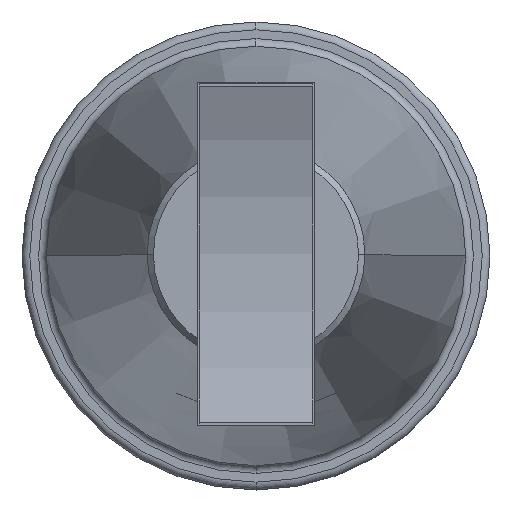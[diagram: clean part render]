
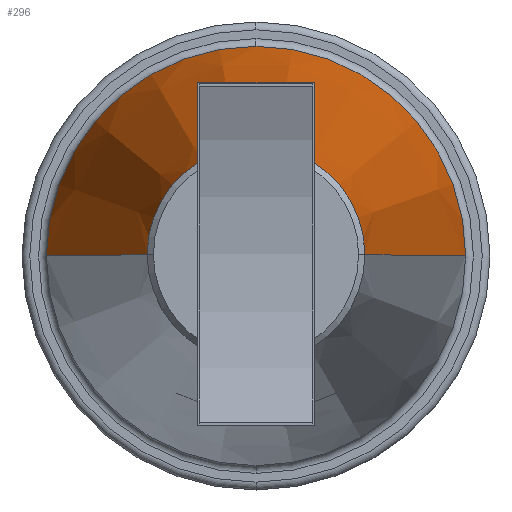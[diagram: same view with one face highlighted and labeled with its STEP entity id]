
A CAD part, top view. The second image highlights one B-rep face of the part: STEP entity #296.
In plain terms, the highlighted conical face has half-angle 7.768 degrees and reference radius 102.093 mm.
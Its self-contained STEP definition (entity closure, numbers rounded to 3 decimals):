
#296=ADVANCED_FACE('',(#621),#622,.T.);
#621=FACE_OUTER_BOUND('',#1008,.T.);
#622=CONICAL_SURFACE('',#1009,102.093,0.136);
#1008=EDGE_LOOP('',(#1703,#1704,#1705,#1706,#1707));
#1009=AXIS2_PLACEMENT_3D('',#1708,#1709,#1710);
#1703=ORIENTED_EDGE('',*,*,#2370,.T.);
#1704=ORIENTED_EDGE('',*,*,#2451,.F.);
#1705=ORIENTED_EDGE('',*,*,#2311,.F.);
#1706=ORIENTED_EDGE('',*,*,#2372,.T.);
#1707=ORIENTED_EDGE('',*,*,#2452,.T.);
#1708=CARTESIAN_POINT('',(408.211,528.029,-12.338));
#1709=DIRECTION('',(0.,0.,-1.0));
#1710=DIRECTION('',(1.0,0.,0.));
#2311=EDGE_CURVE('',#2749,#2751,#2752,.T.);
#2370=EDGE_CURVE('',#2856,#2857,#2858,.T.);
#2372=EDGE_CURVE('',#2749,#2859,#2861,.T.);
#2451=EDGE_CURVE('',#2751,#2857,#2985,.T.);
#2452=EDGE_CURVE('',#2859,#2856,#2986,.T.);
#2749=VERTEX_POINT('',#3368);
#2751=VERTEX_POINT('',#3370);
#2752=CIRCLE('',#3371,134.41);
#2856=VERTEX_POINT('',#3829);
#2857=VERTEX_POINT('',#3830);
#2858=LINE('',#3831,#3832);
#2859=VERTEX_POINT('',#3833);
#2861=LINE('',#3835,#3836);
#2985=CIRCLE('',#4320,134.41);
#2986=CIRCLE('',#4321,69.775);
#3368=CARTESIAN_POINT('',(273.801,528.029,-249.231));
#3370=CARTESIAN_POINT('',(408.211,662.439,-249.231));
#3371=AXIS2_PLACEMENT_3D('',#4805,#4806,#4807);
#3829=CARTESIAN_POINT('',(477.986,528.029,224.555));
#3830=CARTESIAN_POINT('',(542.621,528.029,-249.231));
#3831=CARTESIAN_POINT('',(510.304,528.029,-12.338));
#3832=VECTOR('',#4877,1.0);
#3833=CARTESIAN_POINT('',(338.435,528.029,224.555));
#3835=CARTESIAN_POINT('',(306.118,528.029,-12.338));
#3836=VECTOR('',#4881,1.0);
#4320=AXIS2_PLACEMENT_3D('',#4962,#4963,#4964);
#4321=AXIS2_PLACEMENT_3D('',#4965,#4966,#4967);
#4805=CARTESIAN_POINT('',(408.211,528.029,-249.231));
#4806=DIRECTION('',(0.,0.,-1.0));
#4807=DIRECTION('',(1.0,0.,0.));
#4877=DIRECTION('',(0.135,0.,-0.991));
#4881=DIRECTION('',(0.135,0.,0.991));
#4962=CARTESIAN_POINT('',(408.211,528.029,-249.231));
#4963=DIRECTION('',(0.,0.,-1.0));
#4964=DIRECTION('',(1.0,0.,0.));
#4965=CARTESIAN_POINT('',(408.211,528.029,224.555));
#4966=DIRECTION('',(0.,0.,-1.0));
#4967=DIRECTION('',(1.0,0.,0.));
